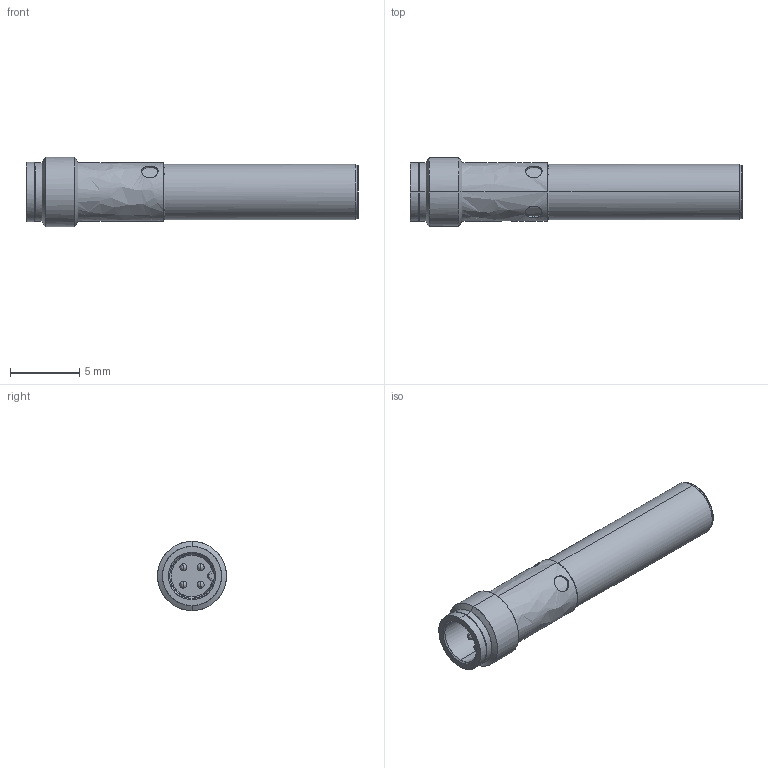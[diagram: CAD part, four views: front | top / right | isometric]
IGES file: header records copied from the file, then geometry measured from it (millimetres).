
Start section: Comment
Global section: file name: IFRM 04xxxA3_S05L.igs; native system:  By Spatial Corp.; preprocessor: XPlus GENERIC/IGES 3.0; author: Author; organization: Title; date: 20060328.145244; units: inch
Bounding box: 24.04 x 4.98 x 5 mm (x, y, z)
Surface area: 422.6 mm2 (no closed solid volume)
Topology: 0 solids, 0 shells, 64 faces, 280 edges, 280 vertices
Faces by surface type: bspline 64
